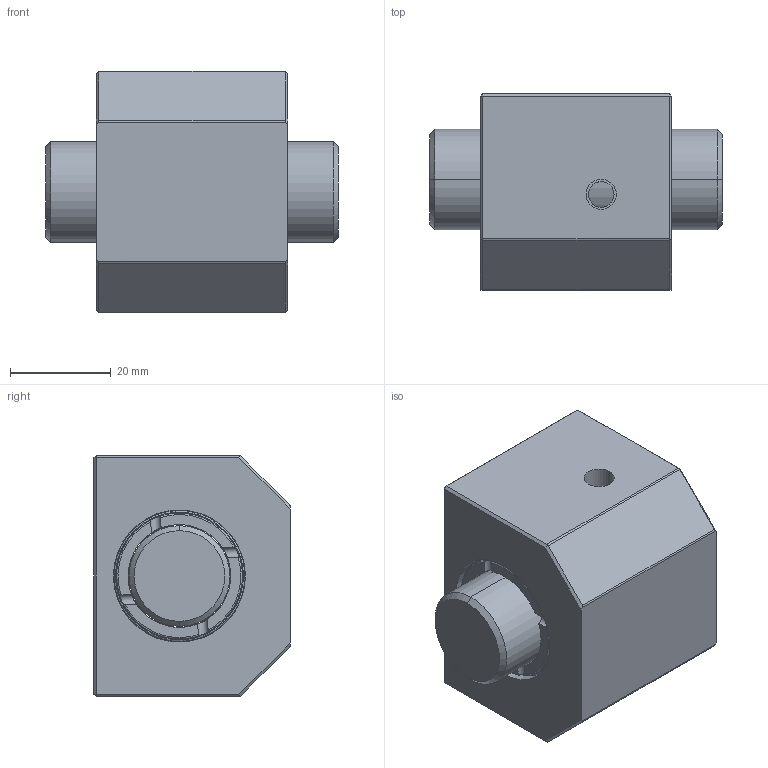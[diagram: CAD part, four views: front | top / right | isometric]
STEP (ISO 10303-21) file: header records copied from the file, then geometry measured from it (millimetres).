
FILE_DESCRIPTION (( 'STEP AP203' ), '1' );
FILE_NAME ('BNTL02005T3-C.STEP', '2020-06-18T01:39:03', ( '' ), ( '' ), 'SwSTEP 2.0', 'SolidWorks 2013', '' );
FILE_SCHEMA (( 'CONFIG_CONTROL_DESIGN' ));
Length unit declared in the file: millimetre
Products named in the file (1): BNTL02005T3-C
Bounding box: 58 x 39 x 48 mm (x, y, z)
Volume: 70344.8 mm3; surface area: 18675.8 mm2
Topology: 2 solids, 2 shells, 123 faces, 308 edges, 192 vertices
Faces by surface type: cylinder 50, plane 41, torus 20, cone 12
Entity records: 4351 total; most frequent: CARTESIAN_POINT 1408, DIRECTION 604, ORIENTED_EDGE 600, EDGE_CURVE 300, AXIS2_PLACEMENT_3D 246, VERTEX_POINT 192, EDGE_LOOP 138, FACE_OUTER_BOUND 123
